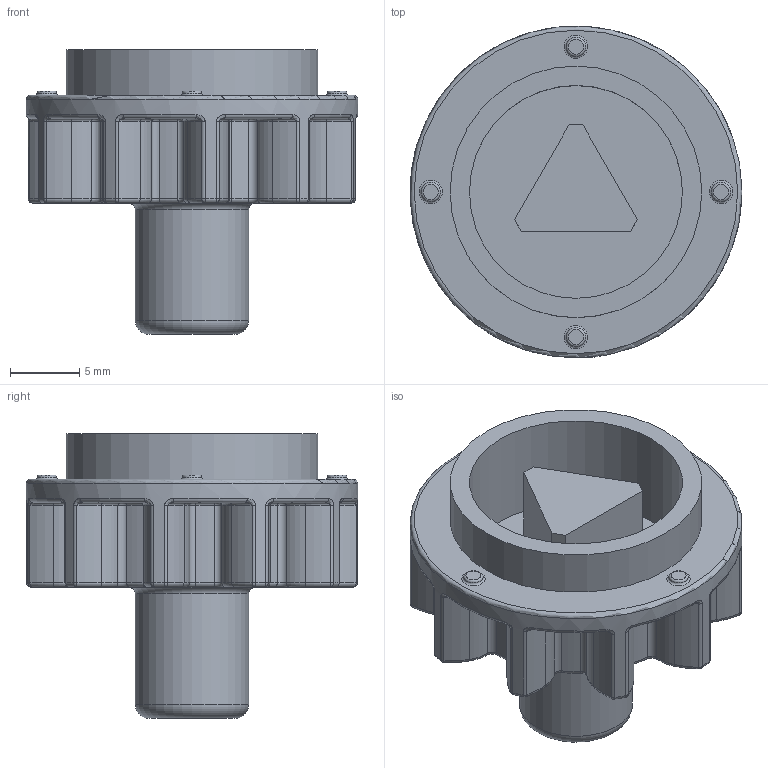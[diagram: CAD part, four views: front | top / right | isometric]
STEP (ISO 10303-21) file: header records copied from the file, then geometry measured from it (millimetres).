
FILE_DESCRIPTION (( 'STEP AP203' ), '1' );
FILE_NAME ('R5NCE214.STEP', '2024-11-25T06:55:52', ( '' ), ( '' ), 'SwSTEP 2.0', 'SolidWorks 2022', '' );
FILE_SCHEMA (( 'CONFIG_CONTROL_DESIGN' ));
Length unit declared in the file: millimetre
Products named in the file (2): RB.2727.00.00.0_-01; R5NCE214
Assembly tree (1 placements, depth 2):
  R5NCE214
    RB.2727.00.00.0_-01
Bounding box: 23.99 x 23.99 x 20.6 mm (x, y, z)
Volume: 2806 mm3; surface area: 2731.7 mm2
Topology: 1 solids, 1 shells, 339 faces, 769 edges, 434 vertices
Faces by surface type: torus 174, cylinder 96, plane 28, bspline 20, sphere 20, cone 1
Full cylindrical faces by diameter (mm): 3 x1, 4.8 x1, 8.2 x1, 15.4 x1, 18.2 x1, 24 x1
Entity records: 9988 total; most frequent: CARTESIAN_POINT 2153, DIRECTION 1904, ORIENTED_EDGE 1456, AXIS2_PLACEMENT_3D 893, EDGE_CURVE 728, CIRCLE 570, VERTEX_POINT 422, EDGE_LOOP 370
